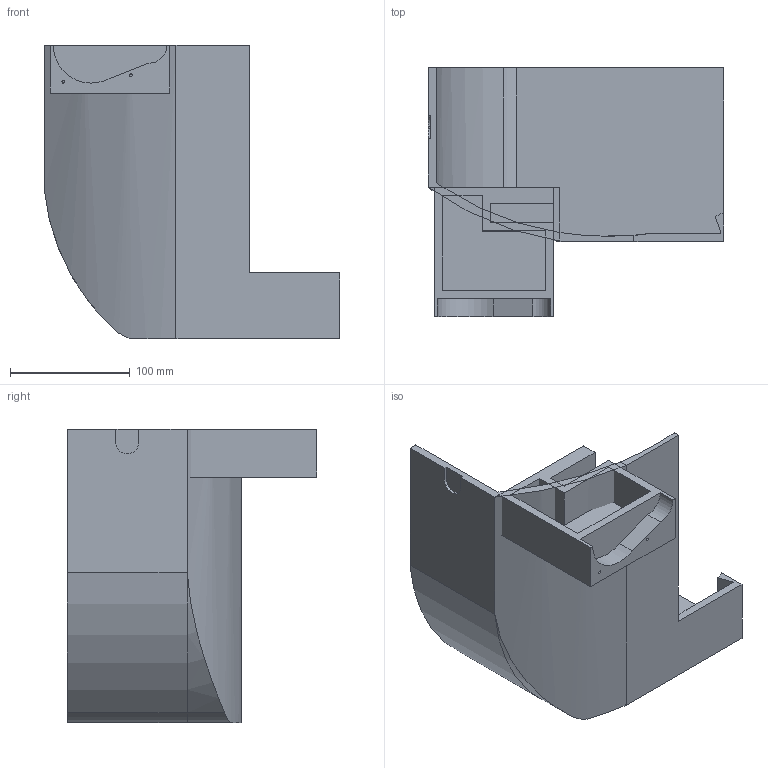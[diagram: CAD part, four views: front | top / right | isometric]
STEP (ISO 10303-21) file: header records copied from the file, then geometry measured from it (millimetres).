
FILE_DESCRIPTION(/* description */ (''),/* implementation_level */ '2;1');
FILE_NAME(/* name */ 'Front FP2.1_MIR.stp',/* time_stamp */ '2025-10-17T11:20:11+05:00',/* author */ ('yrysz'),/* organization */ (''),/* preprocessor_version */ 'ST-DEVELOPER v20',/* originating_system */ 'Autodesk Inventor 2025',/* authorisation */ '');
FILE_SCHEMA (('AUTOMOTIVE_DESIGN { 1 0 10303 214 3 1 1 }'));
Length unit declared in the file: millimetre
Products named in the file (1): Front FP2.1_MIR
Bounding box: 246.71 x 208 x 244.99 mm (x, y, z)
Volume: 839011.3 mm3; surface area: 266102.6 mm2
Topology: 2 solids, 2 shells, 72 faces, 194 edges, 129 vertices
Faces by surface type: plane 51, cylinder 21
Full cylindrical faces by diameter (mm): 2.15 x2
Entity records: 2320 total; most frequent: CARTESIAN_POINT 432, ORIENTED_EDGE 388, DIRECTION 376, EDGE_CURVE 194, LINE 150, VECTOR 150, VERTEX_POINT 129, AXIS2_PLACEMENT_3D 113
